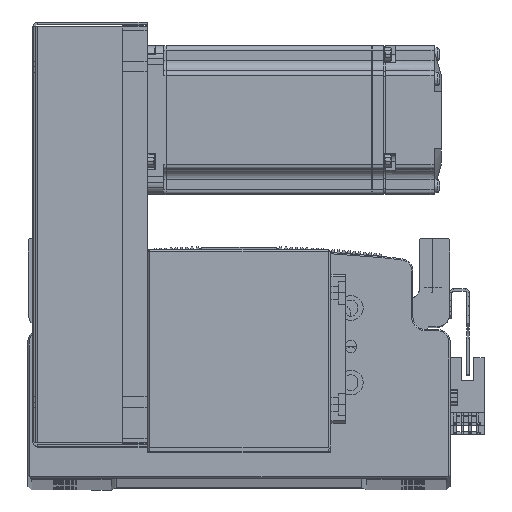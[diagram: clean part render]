
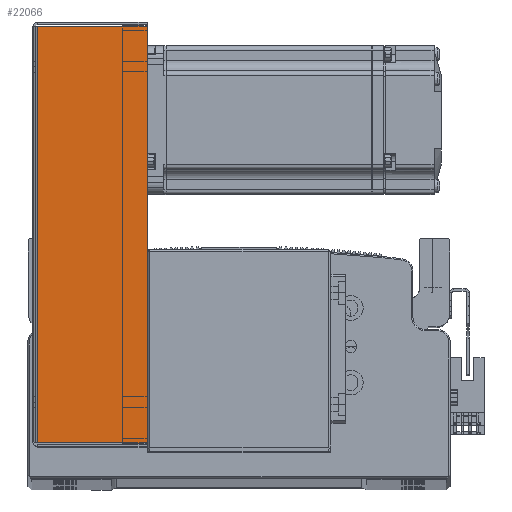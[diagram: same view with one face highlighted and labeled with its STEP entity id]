
A CAD part, top view. The second image highlights one B-rep face of the part: STEP entity #22066.
In plain terms, the highlighted planar face has unit normal (0, 0, 1) as drawn and (0, 0, -1) by its records, which use the part's own axes.
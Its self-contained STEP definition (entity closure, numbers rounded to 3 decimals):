
#19765 = VERTEX_POINT ( 'NONE', #65111 ) ;
#19767 = VERTEX_POINT ( 'NONE', #65123 ) ;
#19792 = VERTEX_POINT ( 'NONE', #65086 ) ;
#19815 = VERTEX_POINT ( 'NONE', #65260 ) ;
#21600 = CARTESIAN_POINT ( 'NONE',  ( 84.5, 45., -40.5 ) ) ;
#21606 = DIRECTION ( 'NONE',  ( 1., 0., 0. ) ) ;
#21703 = CARTESIAN_POINT ( 'NONE',  ( 83.793, 0., -40.5 ) ) ;
#21729 = DIRECTION ( 'NONE',  ( 0., 1., 0. ) ) ;
#21745 = DIRECTION ( 'NONE',  ( 0., 1., 0. ) ) ;
#21784 = CARTESIAN_POINT ( 'NONE',  ( -83.793, 0., -40.5 ) ) ;
#21912 = CARTESIAN_POINT ( 'NONE',  ( 0., 0.737, -40.5 ) ) ;
#21924 = DIRECTION ( 'NONE',  ( 1., 0., 0. ) ) ;
#22066 = ADVANCED_FACE ( 'NONE', ( #70040 ), #58606, .F. ) ;
#26820 = ORIENTED_EDGE ( 'NONE', *, *, #43523, .F. ) ;
#26914 = ORIENTED_EDGE ( 'NONE', *, *, #43504, .T. ) ;
#27029 = ORIENTED_EDGE ( 'NONE', *, *, #43616, .F. ) ;
#27067 = ORIENTED_EDGE ( 'NONE', *, *, #43570, .T. ) ;
#29649 = VECTOR ( 'NONE', #21745, 1000. ) ;
#29660 = LINE ( 'NONE', #21912, #29678 ) ;
#29676 = LINE ( 'NONE', #21784, #29649 ) ;
#29678 = VECTOR ( 'NONE', #21924, 1000. ) ;
#32154 = LINE ( 'NONE', #21600, #32207 ) ;
#32207 = VECTOR ( 'NONE', #21606, 1000. ) ;
#33241 = VECTOR ( 'NONE', #21729, 1000. ) ;
#33304 = LINE ( 'NONE', #21703, #33241 ) ;
#36773 = EDGE_LOOP ( 'NONE', ( #27029, #27067, #26914, #26820 ) ) ;
#43504 = EDGE_CURVE ( 'NONE', #19765, #19767, #32154, .T. ) ;
#43523 = EDGE_CURVE ( 'NONE', #19815, #19767, #33304, .T. ) ;
#43570 = EDGE_CURVE ( 'NONE', #19792, #19765, #29676, .T. ) ;
#43616 = EDGE_CURVE ( 'NONE', #19792, #19815, #29660, .T. ) ;
#58578 = CARTESIAN_POINT ( 'NONE',  ( 0., 0., -40.5 ) ) ;
#58598 = DIRECTION ( 'NONE',  ( 0., -1., 0. ) ) ;
#58606 = PLANE ( 'NONE',  #61644 ) ;
#58608 = DIRECTION ( 'NONE',  ( 0., 0., 1. ) ) ;
#61644 = AXIS2_PLACEMENT_3D ( 'NONE', #58578, #58608, #58598 ) ;
#65086 = CARTESIAN_POINT ( 'NONE',  ( -83.793, 0.737, -40.5 ) ) ;
#65111 = CARTESIAN_POINT ( 'NONE',  ( -83.793, 45., -40.5 ) ) ;
#65123 = CARTESIAN_POINT ( 'NONE',  ( 83.793, 45., -40.5 ) ) ;
#65260 = CARTESIAN_POINT ( 'NONE',  ( 83.793, 0.737, -40.5 ) ) ;
#70040 = FACE_OUTER_BOUND ( 'NONE', #36773, .T. ) ;
